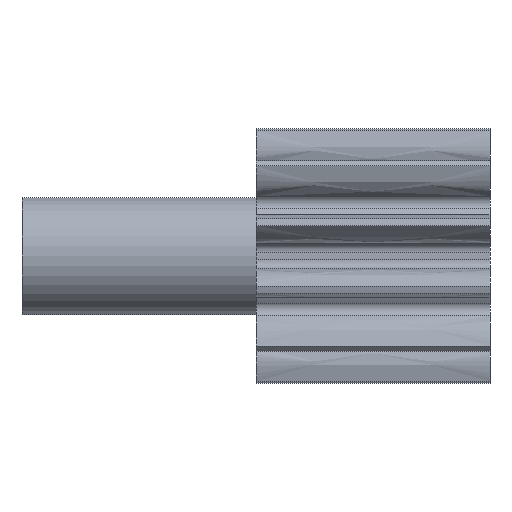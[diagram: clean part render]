
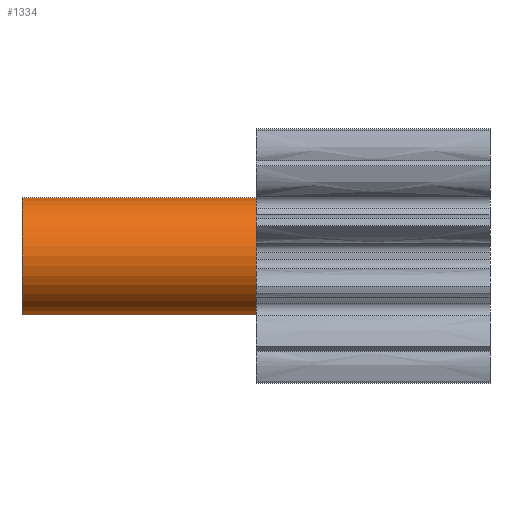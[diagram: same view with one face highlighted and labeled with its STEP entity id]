
A CAD part, left-side view. The second image highlights one B-rep face of the part: STEP entity #1334.
In plain terms, the highlighted cylindrical face has radius 1.25 mm (diameter 2.5 mm), a full revolution.
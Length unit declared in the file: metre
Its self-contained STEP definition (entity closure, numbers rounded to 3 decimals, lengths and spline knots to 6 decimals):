
#231=ORIENTED_EDGE('',*,*,#667,.T.);
#232=ORIENTED_EDGE('',*,*,#668,.F.);
#667=EDGE_CURVE('',#885,#885,#1031,.F.);
#668=EDGE_CURVE('',#886,#886,#1032,.T.);
#885=VERTEX_POINT('',#1950);
#886=VERTEX_POINT('',#1952);
#1031=CIRCLE('',#1424,0.00125);
#1032=CIRCLE('',#1425,0.00125);
#1129=EDGE_LOOP('',(#231));
#1130=EDGE_LOOP('',(#232));
#1207=FACE_BOUND('',#1129,.T.);
#1208=FACE_BOUND('',#1130,.T.);
#1285=CYLINDRICAL_SURFACE('',#1423,0.00125);
#1334=ADVANCED_FACE('',(#1207,#1208),#1285,.T.);
#1423=AXIS2_PLACEMENT_3D('',#1948,#1575,#1576);
#1424=AXIS2_PLACEMENT_3D('',#1949,#1577,#1578);
#1425=AXIS2_PLACEMENT_3D('',#1951,#1579,#1580);
#1575=DIRECTION('',(0.,-1.,0.));
#1576=DIRECTION('',(0.,0.,-1.));
#1577=DIRECTION('',(0.,-1.,0.));
#1578=DIRECTION('',(0.,0.,-1.));
#1579=DIRECTION('',(0.,1.,0.));
#1580=DIRECTION('',(0.,0.,1.));
#1948=CARTESIAN_POINT('',(0.,0.012554,-0.022644));
#1949=CARTESIAN_POINT('',(0.,0.004554,-0.022644));
#1950=CARTESIAN_POINT('',(0.,0.004554,-0.023894));
#1951=CARTESIAN_POINT('',(0.,0.009554,-0.022644));
#1952=CARTESIAN_POINT('',(0.,0.009554,-0.021394));
